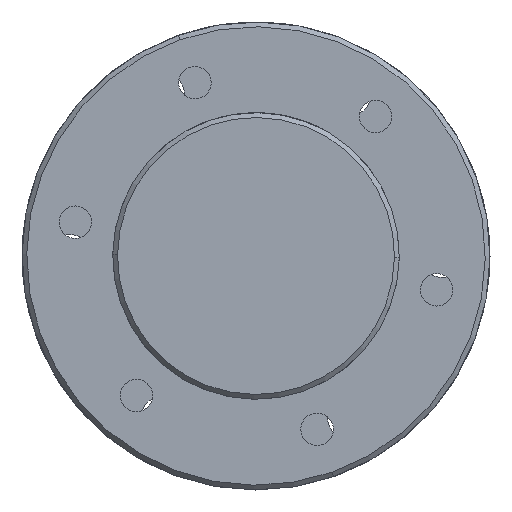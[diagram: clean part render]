
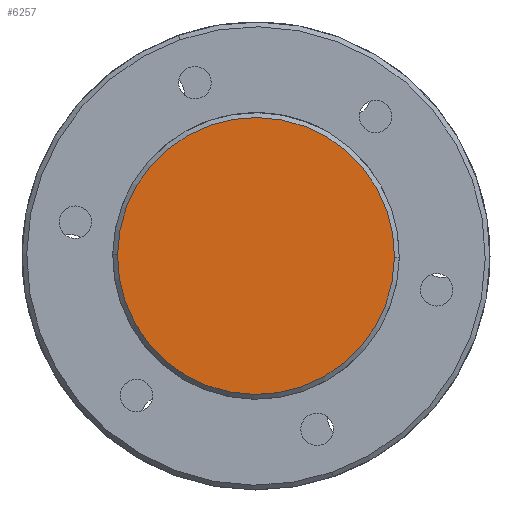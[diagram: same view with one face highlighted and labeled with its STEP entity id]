
A CAD part, left-side view. The second image highlights one B-rep face of the part: STEP entity #6257.
In plain terms, the highlighted planar face has unit normal (-1, 0, 0).
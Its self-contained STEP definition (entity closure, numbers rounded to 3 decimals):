
#1319 = EDGE_CURVE ( 'NONE', #2990, #3691, #19198, .T. ) ;
#2105 = AXIS2_PLACEMENT_3D ( 'NONE', #11465, #9949, #9524 ) ;
#2152 = ORIENTED_EDGE ( 'NONE', *, *, #1319, .T. ) ;
#2990 = VERTEX_POINT ( 'NONE', #6457 ) ;
#3253 = CARTESIAN_POINT ( 'NONE',  ( 0., 0., 29. ) ) ;
#3691 = VERTEX_POINT ( 'NONE', #3253 ) ;
#5283 = CIRCLE ( 'NONE', #10171, 29. ) ;
#6257 = ADVANCED_FACE ( 'NONE', ( #11103 ), #17985, .F. ) ;
#6457 = CARTESIAN_POINT ( 'NONE',  ( 0., 0., -29. ) ) ;
#6970 = DIRECTION ( 'NONE',  ( 0., 0., -1. ) ) ;
#7600 = EDGE_LOOP ( 'NONE', ( #2152, #21481 ) ) ;
#8808 = CARTESIAN_POINT ( 'NONE',  ( 0., 0., 0. ) ) ;
#9524 = DIRECTION ( 'NONE',  ( 0., 0., -1. ) ) ;
#9949 = DIRECTION ( 'NONE',  ( -1., 0., 0. ) ) ;
#10171 = AXIS2_PLACEMENT_3D ( 'NONE', #8808, #19957, #6970 ) ;
#11103 = FACE_OUTER_BOUND ( 'NONE', #7600, .T. ) ;
#11465 = CARTESIAN_POINT ( 'NONE',  ( 0., 0., 0. ) ) ;
#12539 = EDGE_CURVE ( 'NONE', #3691, #2990, #5283, .T. ) ;
#15894 = DIRECTION ( 'NONE',  ( 0., 0., -1. ) ) ;
#17758 = DIRECTION ( 'NONE',  ( 1., 0., 0. ) ) ;
#17985 = PLANE ( 'NONE',  #18033 ) ;
#18033 = AXIS2_PLACEMENT_3D ( 'NONE', #19279, #17758, #15894 ) ;
#19198 = CIRCLE ( 'NONE', #2105, 29. ) ;
#19279 = CARTESIAN_POINT ( 'NONE',  ( 0., 0., 0. ) ) ;
#19957 = DIRECTION ( 'NONE',  ( -1., 0., 0. ) ) ;
#21481 = ORIENTED_EDGE ( 'NONE', *, *, #12539, .T. ) ;
